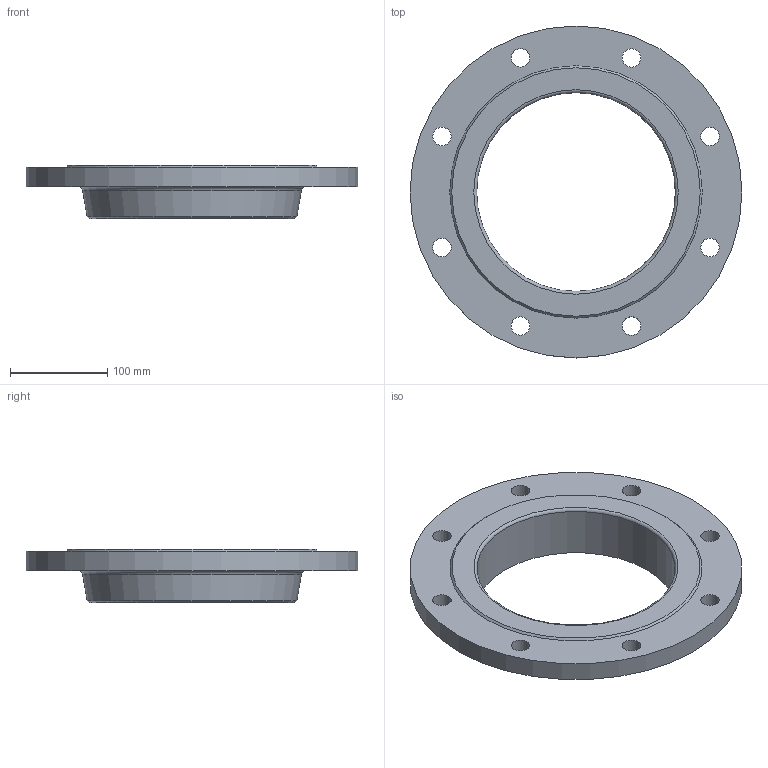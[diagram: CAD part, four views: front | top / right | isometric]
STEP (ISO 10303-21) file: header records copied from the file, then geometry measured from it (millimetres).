
FILE_DESCRIPTION(/* description */ (''),/* implementation_level */ '2;1');
FILE_NAME(/* name */ 'C:\Users\D\Documents\Inventor\HP\JIS\フランジ\水道用フランジF12\RF\ffws_rf_200.stp',/* time_stamp */ '2024-08-28T10:15:27+09:00',/* author */ ('D'),/* organization */ (''),/* preprocessor_version */ 'ST-DEVELOPER v18',/* originating_system */ 'Autodesk Inventor 2020',/* authorisation */ '');
FILE_SCHEMA (('AUTOMOTIVE_DESIGN { 1 0 10303 214 3 1 1 }'));
Length unit declared in the file: millimetre
Products named in the file (1): ffws_rf_80
Bounding box: 342 x 342 x 55 mm (x, y, z)
Volume: 1353821.2 mm3; surface area: 197241.5 mm2
Topology: 1 solids, 1 shells, 19 faces, 58 edges, 43 vertices
Faces by surface type: cylinder 10, plane 4, cone 3, torus 2
Full cylindrical faces by diameter (mm): 19 x8, 204.7 x1, 342 x1
Entity records: 778 total; most frequent: DIRECTION 143, CARTESIAN_POINT 121, ORIENTED_EDGE 116, AXIS2_PLACEMENT_3D 65, EDGE_CURVE 58, CIRCLE 45, VERTEX_POINT 43, EDGE_LOOP 39
